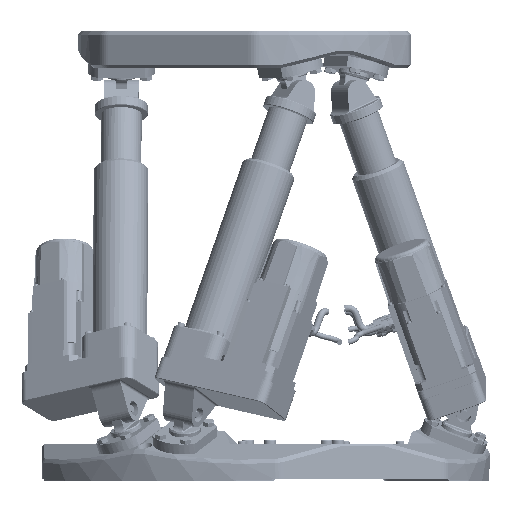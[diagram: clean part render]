
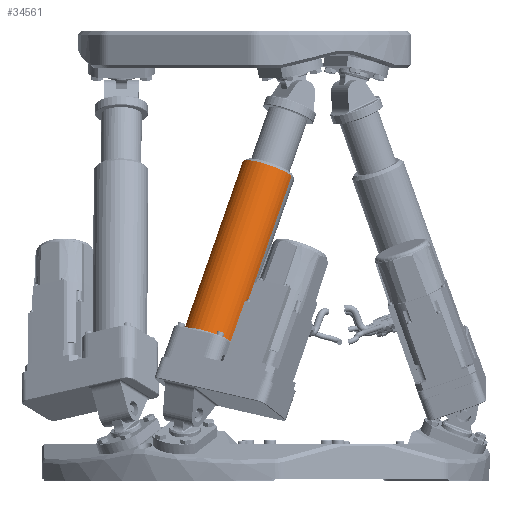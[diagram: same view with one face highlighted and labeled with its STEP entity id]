
A CAD part, front view. The second image highlights one B-rep face of the part: STEP entity #34561.
In plain terms, the highlighted cylindrical face has radius 25.5 mm (diameter 51 mm), a partial arc.
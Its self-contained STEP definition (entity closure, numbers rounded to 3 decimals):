
#29 = VERTEX_POINT ( 'NONE', #21974 ) ;
#5265 = CARTESIAN_POINT ( 'NONE',  ( 0., 0., 203. ) ) ;
#5356 = VECTOR ( 'NONE', #39312, 1000. ) ;
#5364 = VERTEX_POINT ( 'NONE', #40594 ) ;
#7266 = AXIS2_PLACEMENT_3D ( 'NONE', #5265, #11775, #18433 ) ;
#7967 = AXIS2_PLACEMENT_3D ( 'NONE', #13717, #27084, #40960 ) ;
#11775 = DIRECTION ( 'NONE',  ( 0., 0., -1. ) ) ;
#13504 = ORIENTED_EDGE ( 'NONE', *, *, #17560, .T. ) ;
#13717 = CARTESIAN_POINT ( 'NONE',  ( 0., 0., 34. ) ) ;
#13894 = CARTESIAN_POINT ( 'NONE',  ( 0., 0., 203. ) ) ;
#14254 = CYLINDRICAL_SURFACE ( 'NONE', #38581, 25.5 ) ;
#14547 = LINE ( 'NONE', #20773, #18536 ) ;
#14981 = LINE ( 'NONE', #21681, #5356 ) ;
#15288 = VERTEX_POINT ( 'NONE', #38637 ) ;
#16008 = AXIS2_PLACEMENT_3D ( 'NONE', #13894, #33779, #27479 ) ;
#17560 = EDGE_CURVE ( 'NONE', #5364, #19304, #20964, .T. ) ;
#18433 = DIRECTION ( 'NONE',  ( -1., 0., 0. ) ) ;
#18536 = VECTOR ( 'NONE', #41779, 1000. ) ;
#18687 = CIRCLE ( 'NONE', #7266, 25.5 ) ;
#18878 = EDGE_CURVE ( 'NONE', #15288, #19304, #14981, .T. ) ;
#19304 = VERTEX_POINT ( 'NONE', #21285 ) ;
#19836 = ORIENTED_EDGE ( 'NONE', *, *, #35273, .F. ) ;
#20716 = DIRECTION ( 'NONE',  ( 0., 0., 1. ) ) ;
#20773 = CARTESIAN_POINT ( 'NONE',  ( 0., -25.5, 189.5 ) ) ;
#20964 = CIRCLE ( 'NONE', #16008, 25.5 ) ;
#21285 = CARTESIAN_POINT ( 'NONE',  ( 0., 25.5, 203. ) ) ;
#21681 = CARTESIAN_POINT ( 'NONE',  ( 0., 25.5, 189.5 ) ) ;
#21974 = CARTESIAN_POINT ( 'NONE',  ( 0., -25.5, 203. ) ) ;
#22927 = EDGE_CURVE ( 'NONE', #29, #5364, #18687, .T. ) ;
#24778 = ORIENTED_EDGE ( 'NONE', *, *, #34066, .T. ) ;
#25932 = ORIENTED_EDGE ( 'NONE', *, *, #18878, .F. ) ;
#27084 = DIRECTION ( 'NONE',  ( 0., 0., -1. ) ) ;
#27181 = CARTESIAN_POINT ( 'NONE',  ( 0., 0., 189.5 ) ) ;
#27479 = DIRECTION ( 'NONE',  ( -1., 0., 0. ) ) ;
#27595 = ORIENTED_EDGE ( 'NONE', *, *, #22927, .T. ) ;
#30547 = FACE_OUTER_BOUND ( 'NONE', #42956, .T. ) ;
#33779 = DIRECTION ( 'NONE',  ( 0., 0., -1. ) ) ;
#34066 = EDGE_CURVE ( 'NONE', #37127, #29, #14547, .T. ) ;
#34359 = DIRECTION ( 'NONE',  ( 0., -1., 0. ) ) ;
#34561 = ADVANCED_FACE ( 'NONE', ( #30547 ), #14254, .T. ) ;
#35273 = EDGE_CURVE ( 'NONE', #37127, #15288, #35782, .T. ) ;
#35782 = CIRCLE ( 'NONE', #7967, 25.5 ) ;
#37127 = VERTEX_POINT ( 'NONE', #41443 ) ;
#38581 = AXIS2_PLACEMENT_3D ( 'NONE', #27181, #20716, #34359 ) ;
#38637 = CARTESIAN_POINT ( 'NONE',  ( 0., 25.5, 34. ) ) ;
#39312 = DIRECTION ( 'NONE',  ( 0., 0., 1. ) ) ;
#40594 = CARTESIAN_POINT ( 'NONE',  ( -25.5, 0., 203. ) ) ;
#40960 = DIRECTION ( 'NONE',  ( 1., 0., 0. ) ) ;
#41443 = CARTESIAN_POINT ( 'NONE',  ( 0., -25.5, 34. ) ) ;
#41779 = DIRECTION ( 'NONE',  ( 0., 0., 1. ) ) ;
#42956 = EDGE_LOOP ( 'NONE', ( #25932, #19836, #24778, #27595, #13504 ) ) ;
